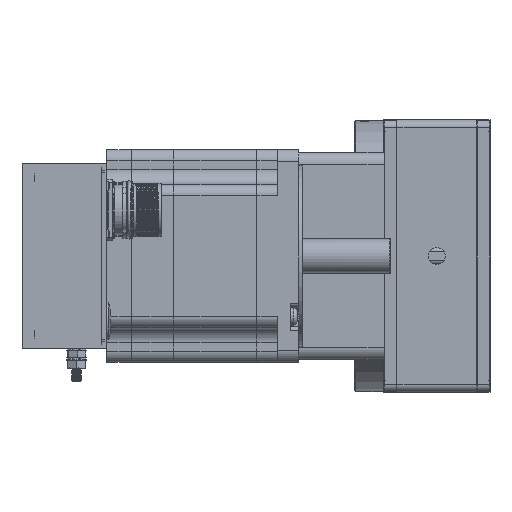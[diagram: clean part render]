
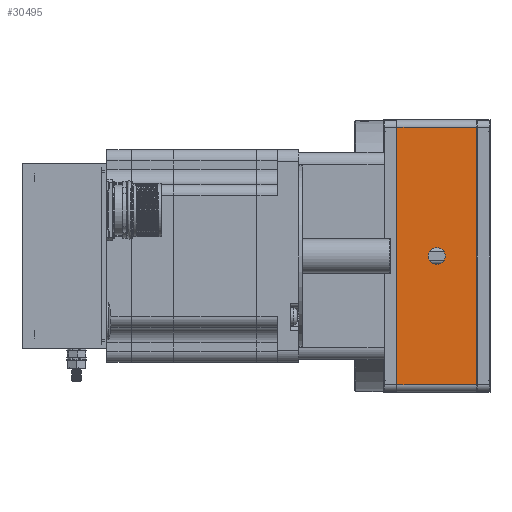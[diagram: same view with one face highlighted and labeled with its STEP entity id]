
A CAD part, left-side view. The second image highlights one B-rep face of the part: STEP entity #30495.
In plain terms, the highlighted planar face has unit normal (-1, 0, 0).
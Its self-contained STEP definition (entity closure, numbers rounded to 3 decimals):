
#1410 = ORIENTED_EDGE ( 'NONE', *, *, #73011, .T. ) ;
#3895 = VERTEX_POINT ( 'NONE', #32472 ) ;
#14217 = CARTESIAN_POINT ( 'NONE',  ( -143., 5.4, -55. ) ) ;
#20454 = CARTESIAN_POINT ( 'NONE',  ( -143., 5.4, -52. ) ) ;
#22605 = VECTOR ( 'NONE', #123358, 1000. ) ;
#27549 = DIRECTION ( 'NONE',  ( 0., 0., -1. ) ) ;
#29906 = VERTEX_POINT ( 'NONE', #76061 ) ;
#30495 = ADVANCED_FACE ( 'NONE', ( #50220, #94213 ), #94956, .F. ) ;
#32472 = CARTESIAN_POINT ( 'NONE',  ( -143., 37.6, -52. ) ) ;
#32708 = VECTOR ( 'NONE', #92583, 1000. ) ;
#37684 = DIRECTION ( 'NONE',  ( 0., 0., 1. ) ) ;
#43791 = LINE ( 'NONE', #77151, #22605 ) ;
#46639 = AXIS2_PLACEMENT_3D ( 'NONE', #104459, #46793, #37684 ) ;
#46793 = DIRECTION ( 'NONE',  ( -1., 0., 0. ) ) ;
#50220 = FACE_BOUND ( 'NONE', #51352, .T. ) ;
#50885 = EDGE_CURVE ( 'NONE', #126034, #122981, #105908, .T. ) ;
#51352 = EDGE_LOOP ( 'NONE', ( #106229 ) ) ;
#56043 = EDGE_CURVE ( 'NONE', #29906, #29906, #112051, .T. ) ;
#60378 = DIRECTION ( 'NONE',  ( 0., 0., -1. ) ) ;
#69130 = CARTESIAN_POINT ( 'NONE',  ( -143., 43., -52. ) ) ;
#73011 = EDGE_CURVE ( 'NONE', #126034, #92876, #86507, .T. ) ;
#76061 = CARTESIAN_POINT ( 'NONE',  ( -143., 21.5, 3.4 ) ) ;
#77151 = CARTESIAN_POINT ( 'NONE',  ( -143., 37.6, -55. ) ) ;
#85018 = DIRECTION ( 'NONE',  ( 0., 1., 0. ) ) ;
#85703 = VECTOR ( 'NONE', #85018, 1000. ) ;
#86507 = LINE ( 'NONE', #142602, #85703 ) ;
#92583 = DIRECTION ( 'NONE',  ( 0., -1., 0. ) ) ;
#92876 = VERTEX_POINT ( 'NONE', #127045 ) ;
#93833 = ORIENTED_EDGE ( 'NONE', *, *, #107072, .F. ) ;
#94213 = FACE_OUTER_BOUND ( 'NONE', #98743, .T. ) ;
#94956 = PLANE ( 'NONE',  #112967 ) ;
#95716 = DIRECTION ( 'NONE',  ( 1., 0., 0. ) ) ;
#98743 = EDGE_LOOP ( 'NONE', ( #134445, #1410, #93833, #126489 ) ) ;
#100436 = LINE ( 'NONE', #69130, #32708 ) ;
#104459 = CARTESIAN_POINT ( 'NONE',  ( -143., 21.5, 0. ) ) ;
#105908 = LINE ( 'NONE', #14217, #133353 ) ;
#106229 = ORIENTED_EDGE ( 'NONE', *, *, #56043, .F. ) ;
#107072 = EDGE_CURVE ( 'NONE', #3895, #92876, #43791, .T. ) ;
#112051 = CIRCLE ( 'NONE', #46639, 3.4 ) ;
#112967 = AXIS2_PLACEMENT_3D ( 'NONE', #141190, #95716, #27549 ) ;
#122981 = VERTEX_POINT ( 'NONE', #20454 ) ;
#123358 = DIRECTION ( 'NONE',  ( 0., 0., 1. ) ) ;
#126034 = VERTEX_POINT ( 'NONE', #129430 ) ;
#126489 = ORIENTED_EDGE ( 'NONE', *, *, #138073, .T. ) ;
#127045 = CARTESIAN_POINT ( 'NONE',  ( -143., 37.6, 52. ) ) ;
#129430 = CARTESIAN_POINT ( 'NONE',  ( -143., 5.4, 52. ) ) ;
#133353 = VECTOR ( 'NONE', #60378, 1000. ) ;
#134445 = ORIENTED_EDGE ( 'NONE', *, *, #50885, .F. ) ;
#138073 = EDGE_CURVE ( 'NONE', #3895, #122981, #100436, .T. ) ;
#141190 = CARTESIAN_POINT ( 'NONE',  ( -143., 43., -55. ) ) ;
#142602 = CARTESIAN_POINT ( 'NONE',  ( -143., 43., 52. ) ) ;
